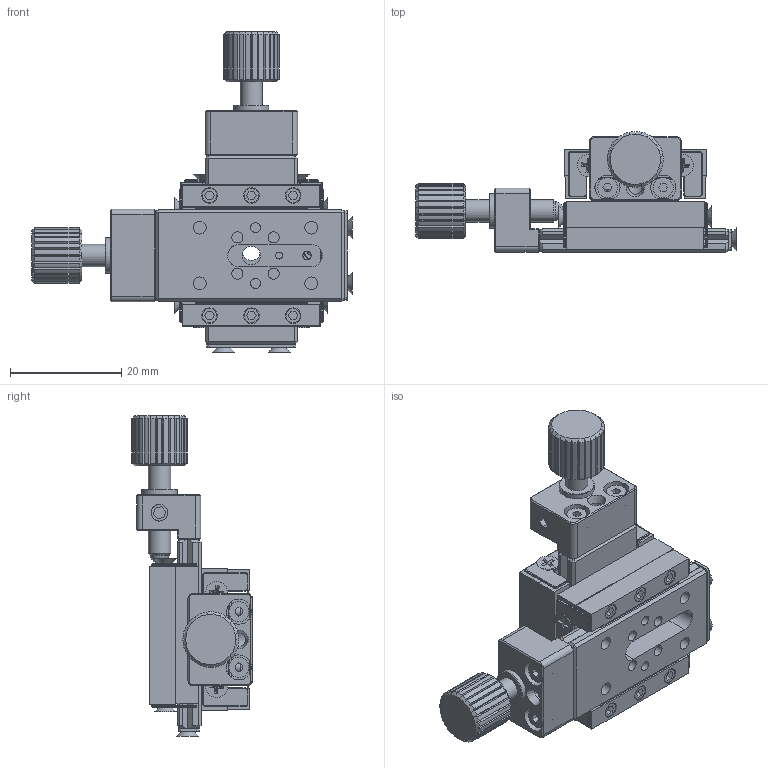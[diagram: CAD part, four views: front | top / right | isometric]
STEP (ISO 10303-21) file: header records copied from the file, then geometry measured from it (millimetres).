
FILE_DESCRIPTION (( 'STEP AP203' ), '1' );
FILE_NAME ('TCB25XY-03A.step', '2017-01-10T09:13:15', ( '¦K¬P' ), ( '' ), 'SwSTEP 2.0', 'SolidWorks 2012', '' );
FILE_SCHEMA (( 'CONFIG_CONTROL_DESIGN' ));
Length unit declared in the file: millimetre
Products named in the file (1): TCB25XY-03A
Bounding box: 57.5 x 21.65 x 57.5 mm (x, y, z)
Surface area: 12590 mm2 (no closed solid volume)
Topology: 0 solids, 51 shells, 850 faces, 2387 edges, 1599 vertices
Faces by surface type: plane 598, cylinder 169, cone 81, sphere 2
Full cylindrical faces by diameter (mm): 1.5 x14, 1.778 x2, 2 x8, 2.3 x5, 2.4 x2, 2.6 x5, 2.8 x7, 3 x2, 3.3 x1, 3.5 x1, 3.6 x4, 4 x2, 4.2 x4, 4.5 x4, 6 x1, 6.3 x2
Entity records: 27350 total; most frequent: CARTESIAN_POINT 5756, DIRECTION 4314, ORIENTED_EDGE 4073, EDGE_CURVE 2289, VERTEX_POINT 1589, VECTOR 1524, LINE 1524, AXIS2_PLACEMENT_3D 1395
